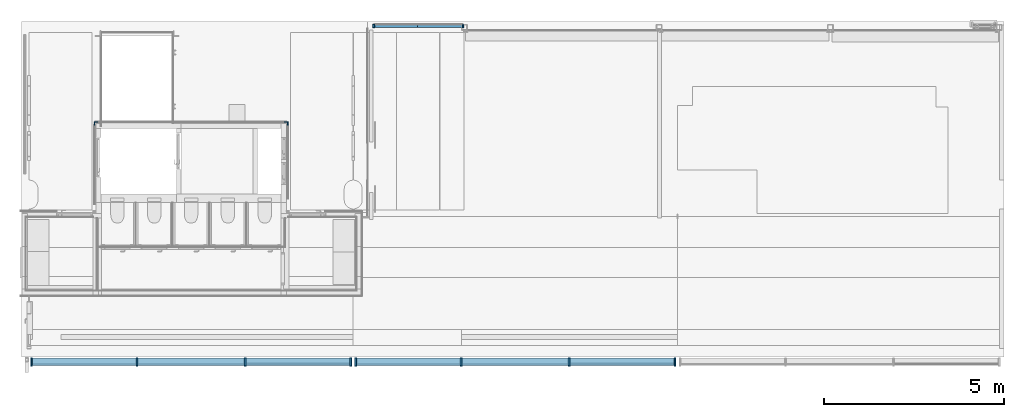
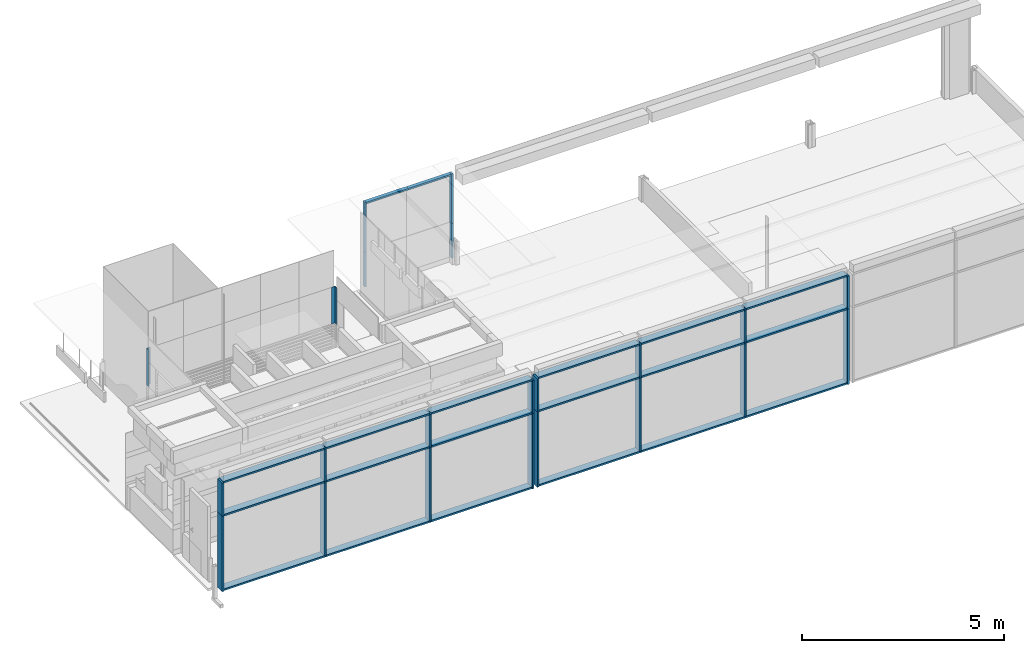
# One storey, part 4 of 26: 42 members, 4 elements without a shape of their own.
"""IFC2X3 building model written with IfcOpenShell, lengths in millimetres."""

import ifcopenshell
import ifcopenshell.guid

model = None  # the IFC model being written
_history = None  # IfcOwnerHistory: only IFC2X3 demands one
_inside = {}  # id of a spatial element -> (the spatial element, [elements in it])
_under = {}  # id of a project, library or spatial element -> (it, [spatial elements below it])
_declared = {}  # id of a project -> (the project, [libraries it declares])
_typed = {}  # id of a type object -> (the type object, [elements of that type])
_made_of = {}  # id of a material, layer set ... -> (it, [elements and type objects made of it])


def new_model(schema):
    """Start an empty IFC model of exactly this schema.

    Asked for "IFC4X3", IfcOpenShell would pick the latest addendum, in which some entities
    have other attributes; the version numbers below select the first issue.
    IFC2X3 requires an IfcOwnerHistory on every rooted entity: one is made here for all.
    """
    global model, _history
    if schema == "IFC4X3":
        model = ifcopenshell.file(schema_version=(4, 3, 0, 0))
    else:
        model = ifcopenshell.file(schema=schema)
    _inside.clear()
    _under.clear()
    _declared.clear()
    _typed.clear()
    _made_of.clear()
    _history = None
    if model.schema == "IFC2X3":
        org = make("IfcOrganization", Name="unknown")
        user = make(
            "IfcPersonAndOrganization",
            ThePerson=make("IfcPerson", FamilyName="unknown"),
            TheOrganization=org,
        )
        app = make(
            "IfcApplication",
            ApplicationDeveloper=org,
            Version="unknown",
            ApplicationFullName="unknown",
            ApplicationIdentifier="unknown",
        )
        _history = make(
            "IfcOwnerHistory",
            OwningUser=user,
            OwningApplication=app,
            ChangeAction="ADDED",
            CreationDate=0,
        )
    return model


def make(cls, **values):
    """One entity of the class cls with the attributes given. An attribute that is None is left unset."""
    return model.create_entity(
        cls, **{name: value for name, value in values.items() if value is not None}
    )


def entity(cls, *values):
    """Any entity or typed value of the class cls, its attributes in the order of the schema. None: left unset."""
    e = model.create_entity(cls)
    for i, value in enumerate(values):
        if value is not None:
            e[i] = value
    return e


def rooted(cls, **values):
    """An entity with a GlobalId (a new one), such as an element, a storey or a relation."""
    return make(cls, GlobalId=ifcopenshell.guid.new(), OwnerHistory=_history, **values)


def si_unit(unit_type, name, prefix=None):
    """IfcSIUnit, for example si_unit("LENGTHUNIT", "METRE", prefix="MILLI")."""
    return make("IfcSIUnit", UnitType=unit_type, Prefix=prefix, Name=name)


def converted_unit(unit_type, name, factor, base, dimensions=None, offset=None):
    """IfcConversionBasedUnit, such as the inch: factor (a typed value) times the base unit."""
    return make(
        "IfcConversionBasedUnit"
        if offset is None
        else "IfcConversionBasedUnitWithOffset",
        ConversionOffset=offset,
        Dimensions=None
        if dimensions is None
        else entity("IfcDimensionalExponents", *dimensions),
        UnitType=unit_type,
        Name=name,
        ConversionFactor=make(
            "IfcMeasureWithUnit", ValueComponent=factor, UnitComponent=base
        ),
    )


def derived_unit(unit_type, elements):
    """IfcDerivedUnit: a product of units, each with its exponent."""
    return make(
        "IfcDerivedUnit",
        Elements=[
            make("IfcDerivedUnitElement", Unit=unit, Exponent=power)
            for unit, power in elements
        ],
        UnitType=unit_type,
    )


def assignment(units):
    """IfcUnitAssignment: the units of a project."""
    return None if units is None else make("IfcUnitAssignment", Units=units)


def point(xyz):
    """IfcCartesianPoint."""
    return None if xyz is None else make("IfcCartesianPoint", Coordinates=xyz)


def direction(xyz):
    """IfcDirection."""
    return None if xyz is None else make("IfcDirection", DirectionRatios=xyz)


def frame(location, z_axis=None, x_axis=None):
    """IfcAxis2Placement3D, a coordinate frame: its origin and axes. An axis left out is left unset."""
    return make(
        "IfcAxis2Placement3D",
        Location=point(location),
        Axis=direction(z_axis),
        RefDirection=direction(x_axis),
    )


def frame_2d(location, x_axis=None):
    """IfcAxis2Placement2D, a coordinate frame in the plane: its origin and x axis."""
    return make(
        "IfcAxis2Placement2D", Location=point(location), RefDirection=direction(x_axis)
    )


def origin():
    """The frame at (0, 0, 0) with its axes left unset."""
    return frame((0.0, 0.0, 0.0))


def origin_with_axes():
    """The frame at (0, 0, 0) with the z axis (0, 0, 1) and the x axis (1, 0, 0) written out."""
    return frame((0.0, 0.0, 0.0), z_axis=(0.0, 0.0, 1.0), x_axis=(1.0, 0.0, 0.0))


def origin_2d_with_axis():
    """The frame at (0, 0) in the plane with the x axis (1, 0) written out."""
    return frame_2d((0.0, 0.0), x_axis=(1.0, 0.0))


def place(relative_to, where):
    """IfcLocalPlacement: puts the frame where relative to a parent placement (None: the world)."""
    return make(
        "IfcLocalPlacement", PlacementRelTo=relative_to, RelativePlacement=where
    )


def context(
    kind, dimensions, precision=None, world=None, true_north=None, identifier=None
):
    """IfcGeometricRepresentationContext, for example the 3D "Model" context."""
    return make(
        "IfcGeometricRepresentationContext",
        ContextIdentifier=identifier,
        ContextType=kind,
        CoordinateSpaceDimension=dimensions,
        Precision=precision,
        WorldCoordinateSystem=world,
        TrueNorth=true_north,
    )


def subcontext(parent, identifier, kind, view, scale=None):
    """IfcGeometricRepresentationSubContext, for example "Body" below "Model"."""
    return make(
        "IfcGeometricRepresentationSubContext",
        ContextIdentifier=identifier,
        ContextType=kind,
        ParentContext=parent,
        TargetScale=scale,
        TargetView=view,
    )


def project(units=None, contexts=None):
    """IfcProject with its units and contexts."""
    return rooted(
        "IfcProject",
        Name="project",
        RepresentationContexts=contexts,
        UnitsInContext=assignment(units),
    )


def spatial(cls, under=None, at=None, **own):
    """A site, building, storey or space (cls), placed at a placement, below another one or the project."""
    s = rooted(cls, ObjectPlacement=at, **own)
    if under is not None:
        _under.setdefault(under.id(), (under, []))[1].append(s)
    return s


def polyline(points):
    """IfcPolyline through the points."""
    return make("IfcPolyline", Points=[point(p) for p in points])


def profile(cls, at=None, kind="AREA", **sizes):
    """A parametric profile (cls). Its sizes go by their IFC names, for example OverallWidth=200.0."""
    return make(cls, ProfileType=kind, Position=at, **sizes)


def rectangle(**sizes):
    """IfcRectangleProfileDef."""
    return profile("IfcRectangleProfileDef", **sizes)


def outline(outer, holes=None, kind="AREA"):
    """IfcArbitraryClosedProfileDef: a profile drawn as a closed curve; with holes, ...WithVoids."""
    if holes is None:
        return make("IfcArbitraryClosedProfileDef", ProfileType=kind, OuterCurve=outer)
    return make(
        "IfcArbitraryProfileDefWithVoids",
        ProfileType=kind,
        OuterCurve=outer,
        InnerCurves=holes,
    )


def extrude(swept, where, along, depth):
    """IfcExtrudedAreaSolid: the profile swept, set in the frame where, extruded along a direction by depth."""
    return make(
        "IfcExtrudedAreaSolid",
        SweptArea=swept,
        Position=where,
        ExtrudedDirection=direction(along),
        Depth=depth,
    )


def shape(context_of_items, identifier, shape_type, items):
    """IfcShapeRepresentation: the items that make up one representation, for example the "Body"."""
    return make(
        "IfcShapeRepresentation",
        ContextOfItems=context_of_items,
        RepresentationIdentifier=identifier,
        RepresentationType=shape_type,
        Items=items,
    )


def source(mapping_origin, context_of_items, identifier, shape_type, items):
    """IfcRepresentationMap: a shape defined once, which mapped items show again and again."""
    return make(
        "IfcRepresentationMap",
        MappingOrigin=mapping_origin,
        MappedRepresentation=shape(context_of_items, identifier, shape_type, items),
    )


def transform(
    local_origin,
    x_axis=None,
    y_axis=None,
    z_axis=None,
    scale=None,
    scale2=None,
    scale3=None,
    uniform=True,
):
    """IfcCartesianTransformationOperator3D, or its non-uniform kind. x_axis, y_axis, z_axis: its Axis1, 2, 3."""
    if uniform:
        return make(
            "IfcCartesianTransformationOperator3D",
            Axis1=direction(x_axis),
            Axis2=direction(y_axis),
            LocalOrigin=point(local_origin),
            Scale=scale,
            Axis3=direction(z_axis),
        )
    return make(
        "IfcCartesianTransformationOperator3DnonUniform",
        Axis1=direction(x_axis),
        Axis2=direction(y_axis),
        LocalOrigin=point(local_origin),
        Scale=scale,
        Axis3=direction(z_axis),
        Scale2=scale2,
        Scale3=scale3,
    )


def mapped(mapping_source, mapping_target):
    """IfcMappedItem: shows the shape of a source again, moved by a transform."""
    return make(
        "IfcMappedItem", MappingSource=mapping_source, MappingTarget=mapping_target
    )


def material(Name=None, Category=None):
    """IfcMaterial."""
    return make("IfcMaterial", Name=Name, Category=Category)


def made_of(thing, what):
    """Note that an element or type object is made of a material, layer set ...; save() writes the relation."""
    if what is not None:
        _made_of.setdefault(what.id(), (what, []))[1].append(thing)
    return thing


def type_object(cls, material=None, **own):
    """A type object (cls), such as IfcWallType, which elements share."""
    return made_of(rooted(cls, **own), material)


def element(
    cls,
    number,
    at=None,
    inside=None,
    cuts=None,
    type_object=None,
    material=None,
    context=None,
    identifier="Body",
    shape_type=None,
    held_by="IfcProductDefinitionShape",
    body=None,
    shapes=None,
    **own,
):
    """One element of the class cls, such as IfcWall. Its Tag is "e" and its number.

    at: its placement. inside: the storey or other place that contains it. cuts: it is an
    opening in that element (IfcRelVoidsElement). A single representation is given by context,
    identifier, shape_type and body (its items); several are given by shapes. held_by: the class
    of the entity that holds the representations. save() writes the other relations.
    """
    e = rooted(cls, Tag="e%d" % number, ObjectPlacement=at, **own)
    if body is not None:
        shapes = [shape(context, identifier, shape_type, body)]
    if shapes is not None:
        e.Representation = make(held_by, Representations=shapes)
    if inside is not None:
        _inside.setdefault(inside.id(), (inside, []))[1].append(e)
    if cuts is not None:
        rooted(
            "IfcRelVoidsElement", RelatingBuildingElement=cuts, RelatedOpeningElement=e
        )
    if type_object is not None:
        _typed.setdefault(type_object.id(), (type_object, []))[1].append(e)
    return made_of(e, material)


def aggregate(whole, parts):
    """IfcRelAggregates: a whole, such as a stair, and the parts it consists of."""
    return rooted("IfcRelAggregates", RelatingObject=whole, RelatedObjects=parts)


def save(model, path):
    """Write the relations noted so far, then the file.

    IfcRelAggregates (storeys below a building ...), IfcRelContainedInSpatialStructure (elements
    in a storey), IfcRelDefinesByType, IfcRelAssociatesMaterial and IfcRelDeclares: one each for
    every whole, place, type object, material and project.
    """
    for whole, parts in _under.values():
        aggregate(whole, parts)
    for where, things in _inside.values():
        rooted(
            "IfcRelContainedInSpatialStructure",
            RelatedElements=things,
            RelatingStructure=where,
        )
    for kind, things in _typed.values():
        rooted("IfcRelDefinesByType", RelatedObjects=things, RelatingType=kind)
    for what, things in _made_of.values():
        rooted("IfcRelAssociatesMaterial", RelatedObjects=things, RelatingMaterial=what)
    for by, libraries in _declared.values():
        rooted("IfcRelDeclares", RelatingContext=by, RelatedDefinitions=libraries)
    model.write(path)


model = new_model("IFC2X3")

# Units and contexts
model_context = context("Model", 3, precision=0.01, world=frame((0.0, 4.29681676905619e-09, 0.0)), true_north=direction((4.01073788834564e-13, 1.0)))
plan_context = context("Plan", 3, precision=0.01, world=frame((0.0, 4.29681676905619e-09, 0.0)), true_north=direction((4.01073788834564e-13, 1.0)))
body_context = subcontext(model_context, "Body", "Model", "MODEL_VIEW")
ifc_project = project(units=[converted_unit("PLANEANGLEUNIT", "DEGREE", entity("IfcPositiveLengthMeasure", 0.0174532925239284), si_unit("PLANEANGLEUNIT", "RADIAN"), dimensions=[0, 0, 0, 0, 0, 0, 0]), si_unit("AREAUNIT", "SQUARE_METRE"), si_unit("LENGTHUNIT", "METRE", prefix="MILLI"), si_unit("MASSUNIT", "GRAM", prefix="KILO"), si_unit("POWERUNIT", "WATT"), si_unit("PRESSUREUNIT", "PASCAL", prefix="KILO"), si_unit("FORCEUNIT", "NEWTON", prefix="KILO"), si_unit("ELECTRICVOLTAGEUNIT", "VOLT"), si_unit("ELECTRICCURRENTUNIT", "AMPERE"), si_unit("THERMODYNAMICTEMPERATUREUNIT", "DEGREE_CELSIUS"), si_unit("TIMEUNIT", "SECOND"), si_unit("VOLUMEUNIT", "CUBIC_METRE"), derived_unit("LINEARVELOCITYUNIT", [(si_unit("LENGTHUNIT", "METRE"), 1), (si_unit("TIMEUNIT", "SECOND"), -1)]), derived_unit("VOLUMETRICFLOWRATEUNIT", [(si_unit("VOLUMEUNIT", "CUBIC_METRE"), 1), (si_unit("TIMEUNIT", "SECOND"), -1)]), derived_unit("THERMALTRANSMITTANCEUNIT", [(si_unit("POWERUNIT", "WATT"), 1), (si_unit("THERMODYNAMICTEMPERATUREUNIT", "KELVIN"), -1), (si_unit("AREAUNIT", "SQUARE_METRE"), -1)]), derived_unit("SOUNDPRESSUREUNIT", [(si_unit("PRESSUREUNIT", "PASCAL"), 1)])], contexts=[model_context, plan_context])

# Site, building, storey
site_placement = place(None, origin_with_axes())
site = spatial("IfcSite", under=ifc_project, at=site_placement, Name="ENGM", CompositionType="ELEMENT")
building_placement = place(site_placement, origin_with_axes())
building = spatial("IfcBuilding", under=site, at=building_placement, Name="TG", CompositionType="ELEMENT")
storey_placement = place(building_placement, frame((0.0, 0.0, 210200.0), z_axis=(0.0, 0.0, 1.0), x_axis=(1.0, 0.0, 0.0)))
storey = spatial("IfcBuildingStorey", under=building, at=storey_placement, Name="Nivå F - 0,7 m", CompositionType="ELEMENT", Elevation=210200.0)

# Curtain wall, members
curtain_wall_type_1 = type_object("IfcCurtainWallType", Name="Curtain Wall:A232 - UGV - Glass 30 mm", PredefinedType="NOTDEFINED")
curtain_wall_1_placement = place(storey_placement, frame((0.0, 0.0, -210200.0), z_axis=(0.0, 0.0, 1.0), x_axis=(1.0, 0.0, 0.0)))
curtain_wall_1 = element("IfcCurtainWall", 1, at=curtain_wall_1_placement, inside=storey, type_object=curtain_wall_type_1, Name="Curtain Wall:A232 - UGV - Glass 30 mm", ObjectType="Curtain Wall:A232 - UGV - Glass 30 mm")
ifc_material_1 = material(Name="T2_Metal_Aluminium")
member_type_1 = type_object("IfcMemberType", Name="Rectangular Mullion:A233 - Sprosse - 165(post)+50(dekkprofil) x 50 mm", PredefinedType="MULLION", material=ifc_material_1)
shared_shape_1 = source(origin(), body_context, "Body", "SweptSolid", [
    extrude(rectangle(XDim=214.999999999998, YDim=50.0, at=frame_2d((7.105427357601e-15, 0.0), x_axis=(1.0, 0.0))), frame((-25.0, 57.5000000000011, -2905.0), z_axis=(0.0, 0.0, 1.0), x_axis=(0.0, -1.0, 0.0)), (0.0, 0.0, 1.0), 2904.99999999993),
])
member_1_placement = place(curtain_wall_1_placement, frame((330904.725000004, 457999.999999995, 210180.0), z_axis=(1.0, 0.0, 0.0), x_axis=(0.0, 0.0, -1.0)))
member_1 = element("IfcMember", 2, at=member_1_placement, type_object=member_type_1, material=ifc_material_1, Name="Rectangular Mullion:A233 - Sprosse - 165(post)+50(dekkprofil) x 50 mm", ObjectType="Rectangular Mullion:A233 - Sprosse - 165(post)+50(dekkprofil) x 50 mm", context=body_context, shape_type="MappedRepresentation", body=[
    mapped(shared_shape_1, transform((0.0, 0.0, 0.0), scale=1.0)),
])
member_type_2 = type_object("IfcMemberType", Name="Rectangular Mullion:A233 - Sprosse - 165(post)+50(dekkprofil) x 50 mm", PredefinedType="MULLION", material=ifc_material_1)
member_2_placement = place(curtain_wall_1_placement, frame((324999.725000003, 458000.0, 210180.0), z_axis=(1.0, 0.0, 0.0), x_axis=(0.0, 0.0, -1.0)))
member_2 = element("IfcMember", 3, at=member_2_placement, type_object=member_type_2, material=ifc_material_1, Name="Rectangular Mullion:A233 - Sprosse - 165(post)+50(dekkprofil) x 50 mm", ObjectType="Rectangular Mullion:A233 - Sprosse - 165(post)+50(dekkprofil) x 50 mm", context=body_context, shape_type="MappedRepresentation", body=[
    mapped(shared_shape_1, transform((0.0, 0.0, 0.0), scale=1.0)),
])

curtain_wall_2_placement = place(storey_placement, frame((0.0, 0.0, -210200.0), z_axis=(0.0, 0.0, 1.0), x_axis=(1.0, 0.0, 0.0)))
curtain_wall_2 = element("IfcCurtainWall", 4, at=curtain_wall_2_placement, inside=storey, type_object=curtain_wall_type_1, Name="Curtain Wall:A232 - UGV - Glass 30 mm", ObjectType="Curtain Wall:A232 - UGV - Glass 30 mm")
member_3_placement = place(curtain_wall_2_placement, frame((339904.725000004, 457999.999999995, 210180.0), z_axis=(1.0, 0.0, 0.0), x_axis=(0.0, 0.0, -1.0)))
member_3 = element("IfcMember", 5, at=member_3_placement, type_object=member_type_1, material=ifc_material_1, Name="Rectangular Mullion:A233 - Sprosse - 165(post)+50(dekkprofil) x 50 mm", ObjectType="Rectangular Mullion:A233 - Sprosse - 165(post)+50(dekkprofil) x 50 mm", context=body_context, shape_type="MappedRepresentation", body=[
    mapped(shared_shape_1, transform((0.0, 0.0, 0.0), scale=1.0)),
])
member_4_placement = place(curtain_wall_2_placement, frame((333999.725000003, 458000.0, 210180.0), z_axis=(1.0, 0.0, 0.0), x_axis=(0.0, 0.0, -1.0)))
member_4 = element("IfcMember", 6, at=member_4_placement, type_object=member_type_2, material=ifc_material_1, Name="Rectangular Mullion:A233 - Sprosse - 165(post)+50(dekkprofil) x 50 mm", ObjectType="Rectangular Mullion:A233 - Sprosse - 165(post)+50(dekkprofil) x 50 mm", context=body_context, shape_type="MappedRepresentation", body=[
    mapped(shared_shape_1, transform((0.0, 0.0, 0.0), scale=1.0)),
])

# Member
member_type_3 = type_object("IfcMemberType", Name="Rectangular Mullion:A233 - Sprosse - 165(post)+50(dekkprofil) x 50 mm", PredefinedType="MULLION", material=ifc_material_1)
shared_shape_2 = source(origin(), body_context, "Body", "SweptSolid", [
    extrude(rectangle(XDim=214.999999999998, YDim=50.0, at=frame_2d((7.105427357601e-15, 0.0), x_axis=(1.0, 0.0))), frame((-25.0, 57.5000000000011, -3000.0), z_axis=(0.0, 0.0, 1.0), x_axis=(0.0, -1.0, 0.0)), (0.0, 0.0, 1.0), 3000.00000000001),
])
member_5_placement = place(curtain_wall_1_placement, frame((327999.725000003, 457999.999999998, 210180.0), z_axis=(1.0, 0.0, 0.0), x_axis=(0.0, 0.0, -1.0)))
member_5 = element("IfcMember", 7, at=member_5_placement, type_object=member_type_3, material=ifc_material_1, Name="Rectangular Mullion:A233 - Sprosse - 165(post)+50(dekkprofil) x 50 mm", ObjectType="Rectangular Mullion:A233 - Sprosse - 165(post)+50(dekkprofil) x 50 mm", context=body_context, shape_type="MappedRepresentation", body=[
    mapped(shared_shape_2, transform((0.0, 0.0, 0.0), scale=1.0)),
])

member_6_placement = place(curtain_wall_2_placement, frame((336999.725000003, 457999.999999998, 210180.0), z_axis=(1.0, 0.0, 0.0), x_axis=(0.0, 0.0, -1.0)))
member_6 = element("IfcMember", 8, at=member_6_placement, type_object=member_type_3, material=ifc_material_1, Name="Rectangular Mullion:A233 - Sprosse - 165(post)+50(dekkprofil) x 50 mm", ObjectType="Rectangular Mullion:A233 - Sprosse - 165(post)+50(dekkprofil) x 50 mm", context=body_context, shape_type="MappedRepresentation", body=[
    mapped(shared_shape_2, transform((0.0, 0.0, 0.0), scale=1.0)),
])

member_type_4 = type_object("IfcMemberType", Name="Rectangular Mullion:A233 - Sprosse - 165(post)+70(dekkprofil) x 50 mm", PredefinedType="MULLION", material=ifc_material_1)
shared_shape_3 = source(origin(), body_context, "Body", "SweptSolid", [
    extrude(rectangle(XDim=50.0, YDim=234.999999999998, at=origin_2d_with_axis()), frame((0.0, 47.5000000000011, -2225.0), z_axis=(0.0, 0.0, 1.0), x_axis=(-1.0, 0.0, 0.0)), (0.0, 0.0, 1.0), 2224.99999999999),
])
member_7_placement = place(curtain_wall_1_placement, frame((324999.725000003, 458000.0, 210230.0), z_axis=(0.0, 0.0, -1.0), x_axis=(-1.0, 0.0, 0.0)))
member_7 = element("IfcMember", 9, at=member_7_placement, type_object=member_type_4, material=ifc_material_1, Name="Rectangular Mullion:A233 - Sprosse - 165(post)+70(dekkprofil) x 50 mm", ObjectType="Rectangular Mullion:A233 - Sprosse - 165(post)+70(dekkprofil) x 50 mm", context=body_context, shape_type="MappedRepresentation", body=[
    mapped(shared_shape_3, transform((0.0, 0.0, 0.0), scale=1.0)),
])

member_8_placement = place(curtain_wall_1_placement, frame((327999.725000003, 457999.999999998, 210230.0), z_axis=(0.0, 0.0, -1.0), x_axis=(-1.0, 0.0, 0.0)))
member_8 = element("IfcMember", 10, at=member_8_placement, type_object=member_type_4, material=ifc_material_1, Name="Rectangular Mullion:A233 - Sprosse - 165(post)+70(dekkprofil) x 50 mm", ObjectType="Rectangular Mullion:A233 - Sprosse - 165(post)+70(dekkprofil) x 50 mm", context=body_context, shape_type="MappedRepresentation", body=[
    mapped(shared_shape_3, transform((0.0, 0.0, 0.0), scale=1.0)),
])

member_9_placement = place(curtain_wall_2_placement, frame((333999.725000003, 458000.0, 210230.0), z_axis=(0.0, 0.0, -1.0), x_axis=(-1.0, 0.0, 0.0)))
member_9 = element("IfcMember", 11, at=member_9_placement, type_object=member_type_4, material=ifc_material_1, Name="Rectangular Mullion:A233 - Sprosse - 165(post)+70(dekkprofil) x 50 mm", ObjectType="Rectangular Mullion:A233 - Sprosse - 165(post)+70(dekkprofil) x 50 mm", context=body_context, shape_type="MappedRepresentation", body=[
    mapped(shared_shape_3, transform((0.0, 0.0, 0.0), scale=1.0)),
])

member_10_placement = place(curtain_wall_2_placement, frame((336999.725000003, 457999.999999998, 210230.0), z_axis=(0.0, 0.0, -1.0), x_axis=(-1.0, 0.0, 0.0)))
member_10 = element("IfcMember", 12, at=member_10_placement, type_object=member_type_4, material=ifc_material_1, Name="Rectangular Mullion:A233 - Sprosse - 165(post)+70(dekkprofil) x 50 mm", ObjectType="Rectangular Mullion:A233 - Sprosse - 165(post)+70(dekkprofil) x 50 mm", context=body_context, shape_type="MappedRepresentation", body=[
    mapped(shared_shape_3, transform((0.0, 0.0, 0.0), scale=1.0)),
])

member_type_5 = type_object("IfcMemberType", Name="Rectangular Mullion:A233 - Sprosse - 165(post)+70(dekkprofil) x 50 mm", PredefinedType="MULLION", material=ifc_material_1)
shared_shape_4 = source(origin(), body_context, "Body", "SweptSolid", [
    extrude(rectangle(XDim=234.999999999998, YDim=50.0, at=frame_2d((7.105427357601e-15, 0.0), x_axis=(1.0, 0.0))), frame((-25.0, 47.5000000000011, -1000.0), z_axis=(0.0, 0.0, 1.0), x_axis=(0.0, -1.0, 0.0)), (0.0, 0.0, 1.0), 1000.0),
])
member_11_placement = place(curtain_wall_1_placement, frame((330954.725000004, 457999.999999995, 213455.0), z_axis=(0.0, 0.0, 1.0), x_axis=(1.0, 0.0, 0.0)))
member_11 = element("IfcMember", 13, at=member_11_placement, type_object=member_type_5, material=ifc_material_1, Name="Rectangular Mullion:A233 - Sprosse - 165(post)+70(dekkprofil) x 50 mm", ObjectType="Rectangular Mullion:A233 - Sprosse - 165(post)+70(dekkprofil) x 50 mm", context=body_context, shape_type="MappedRepresentation", body=[
    mapped(shared_shape_4, transform((0.0, 0.0, 0.0), scale=1.0)),
])

member_12_placement = place(curtain_wall_2_placement, frame((339954.725000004, 457999.999999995, 213455.0), z_axis=(0.0, 0.0, 1.0), x_axis=(1.0, 0.0, 0.0)))
member_12 = element("IfcMember", 14, at=member_12_placement, type_object=member_type_5, material=ifc_material_1, Name="Rectangular Mullion:A233 - Sprosse - 165(post)+70(dekkprofil) x 50 mm", ObjectType="Rectangular Mullion:A233 - Sprosse - 165(post)+70(dekkprofil) x 50 mm", context=body_context, shape_type="MappedRepresentation", body=[
    mapped(shared_shape_4, transform((0.0, 0.0, 0.0), scale=1.0)),
])

member_type_6 = type_object("IfcMemberType", Name="Rectangular Mullion:A233 - Sprosse - 165(post)+50(dekkprofil) x 50 mm", PredefinedType="MULLION", material=ifc_material_1)
shared_shape_5 = source(origin(), body_context, "Body", "SweptSolid", [
    extrude(rectangle(XDim=50.0, YDim=214.999999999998, at=frame_2d((0.0, -1.4210854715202e-14), x_axis=(1.0, 0.0))), frame((0.0, 57.5000000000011, -2880.0), z_axis=(0.0, 0.0, 1.0), x_axis=(-1.0, 0.0, 0.0)), (0.0, 0.0, 1.0), 2880.0),
])
member_13_placement = place(curtain_wall_1_placement, frame((328024.725000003, 457999.999999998, 213455.0), z_axis=(-1.0, 0.0, 0.0), x_axis=(0.0, 0.0, 1.0)))
member_13 = element("IfcMember", 15, at=member_13_placement, type_object=member_type_6, material=ifc_material_1, Name="Rectangular Mullion:A233 - Sprosse - 165(post)+50(dekkprofil) x 50 mm", ObjectType="Rectangular Mullion:A233 - Sprosse - 165(post)+50(dekkprofil) x 50 mm", context=body_context, shape_type="MappedRepresentation", body=[
    mapped(shared_shape_5, transform((0.0, 0.0, 0.0), scale=1.0)),
])

member_14_placement = place(curtain_wall_1_placement, frame((322094.725000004, 458000.000000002, 213455.0), z_axis=(-1.0, 0.0, 0.0), x_axis=(0.0, 0.0, 1.0)))
member_14 = element("IfcMember", 16, at=member_14_placement, type_object=member_type_6, material=ifc_material_1, Name="Rectangular Mullion:A233 - Sprosse - 165(post)+50(dekkprofil) x 50 mm", ObjectType="Rectangular Mullion:A233 - Sprosse - 165(post)+50(dekkprofil) x 50 mm", context=body_context, shape_type="MappedRepresentation", body=[
    mapped(shared_shape_5, transform((0.0, 0.0, 0.0), scale=1.0)),
])

member_15_placement = place(curtain_wall_1_placement, frame((328024.725000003, 457999.999999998, 212455.0), z_axis=(-1.0, 0.0, 0.0), x_axis=(0.0, 0.0, 1.0)))
member_15 = element("IfcMember", 17, at=member_15_placement, type_object=member_type_6, material=ifc_material_1, Name="Rectangular Mullion:A233 - Sprosse - 165(post)+50(dekkprofil) x 50 mm", ObjectType="Rectangular Mullion:A233 - Sprosse - 165(post)+50(dekkprofil) x 50 mm", context=body_context, shape_type="MappedRepresentation", body=[
    mapped(shared_shape_5, transform((0.0, 0.0, 0.0), scale=1.0)),
])

member_16_placement = place(curtain_wall_1_placement, frame((322094.725000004, 458000.000000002, 212455.0), z_axis=(-1.0, 0.0, 0.0), x_axis=(0.0, 0.0, 1.0)))
member_16 = element("IfcMember", 18, at=member_16_placement, type_object=member_type_6, material=ifc_material_1, Name="Rectangular Mullion:A233 - Sprosse - 165(post)+50(dekkprofil) x 50 mm", ObjectType="Rectangular Mullion:A233 - Sprosse - 165(post)+50(dekkprofil) x 50 mm", context=body_context, shape_type="MappedRepresentation", body=[
    mapped(shared_shape_5, transform((0.0, 0.0, 0.0), scale=1.0)),
])

member_17_placement = place(curtain_wall_2_placement, frame((337024.725000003, 457999.999999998, 213455.0), z_axis=(-1.0, 0.0, 0.0), x_axis=(0.0, 0.0, 1.0)))
member_17 = element("IfcMember", 19, at=member_17_placement, type_object=member_type_6, material=ifc_material_1, Name="Rectangular Mullion:A233 - Sprosse - 165(post)+50(dekkprofil) x 50 mm", ObjectType="Rectangular Mullion:A233 - Sprosse - 165(post)+50(dekkprofil) x 50 mm", context=body_context, shape_type="MappedRepresentation", body=[
    mapped(shared_shape_5, transform((0.0, 0.0, 0.0), scale=1.0)),
])

member_18_placement = place(curtain_wall_2_placement, frame((331094.725000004, 458000.000000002, 213455.0), z_axis=(-1.0, 0.0, 0.0), x_axis=(0.0, 0.0, 1.0)))
member_18 = element("IfcMember", 20, at=member_18_placement, type_object=member_type_6, material=ifc_material_1, Name="Rectangular Mullion:A233 - Sprosse - 165(post)+50(dekkprofil) x 50 mm", ObjectType="Rectangular Mullion:A233 - Sprosse - 165(post)+50(dekkprofil) x 50 mm", context=body_context, shape_type="MappedRepresentation", body=[
    mapped(shared_shape_5, transform((0.0, 0.0, 0.0), scale=1.0)),
])

member_19_placement = place(curtain_wall_2_placement, frame((337024.725000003, 457999.999999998, 212455.0), z_axis=(-1.0, 0.0, 0.0), x_axis=(0.0, 0.0, 1.0)))
member_19 = element("IfcMember", 21, at=member_19_placement, type_object=member_type_6, material=ifc_material_1, Name="Rectangular Mullion:A233 - Sprosse - 165(post)+50(dekkprofil) x 50 mm", ObjectType="Rectangular Mullion:A233 - Sprosse - 165(post)+50(dekkprofil) x 50 mm", context=body_context, shape_type="MappedRepresentation", body=[
    mapped(shared_shape_5, transform((0.0, 0.0, 0.0), scale=1.0)),
])

member_20_placement = place(curtain_wall_2_placement, frame((331094.725000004, 458000.000000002, 212455.0), z_axis=(-1.0, 0.0, 0.0), x_axis=(0.0, 0.0, 1.0)))
member_20 = element("IfcMember", 22, at=member_20_placement, type_object=member_type_6, material=ifc_material_1, Name="Rectangular Mullion:A233 - Sprosse - 165(post)+50(dekkprofil) x 50 mm", ObjectType="Rectangular Mullion:A233 - Sprosse - 165(post)+50(dekkprofil) x 50 mm", context=body_context, shape_type="MappedRepresentation", body=[
    mapped(shared_shape_5, transform((0.0, 0.0, 0.0), scale=1.0)),
])

member_type_7 = type_object("IfcMemberType", Name="Rectangular Mullion:A233 - Sprosse - 165(post)+50(dekkprofil) x 50 mm", PredefinedType="MULLION", material=ifc_material_1)
shared_shape_6 = source(origin(), body_context, "Body", "SweptSolid", [
    extrude(rectangle(XDim=50.0, YDim=214.999999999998, at=frame_2d((0.0, -1.4210854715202e-14), x_axis=(1.0, 0.0))), frame((0.0, 57.5000000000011, -2950.0), z_axis=(0.0, 0.0, 1.0), x_axis=(-1.0, 0.0, 0.0)), (0.0, 0.0, 1.0), 2950.00000000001),
])
member_21_placement = place(curtain_wall_1_placement, frame((325024.725000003, 458000.0, 213455.0), z_axis=(-1.0, 0.0, 0.0), x_axis=(0.0, 0.0, 1.0)))
member_21 = element("IfcMember", 23, at=member_21_placement, type_object=member_type_7, material=ifc_material_1, Name="Rectangular Mullion:A233 - Sprosse - 165(post)+50(dekkprofil) x 50 mm", ObjectType="Rectangular Mullion:A233 - Sprosse - 165(post)+50(dekkprofil) x 50 mm", context=body_context, shape_type="MappedRepresentation", body=[
    mapped(shared_shape_6, transform((0.0, 0.0, 0.0), scale=1.0)),
])

member_22_placement = place(curtain_wall_1_placement, frame((325024.725000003, 458000.0, 212455.0), z_axis=(-1.0, 0.0, 0.0), x_axis=(0.0, 0.0, 1.0)))
member_22 = element("IfcMember", 24, at=member_22_placement, type_object=member_type_7, material=ifc_material_1, Name="Rectangular Mullion:A233 - Sprosse - 165(post)+50(dekkprofil) x 50 mm", ObjectType="Rectangular Mullion:A233 - Sprosse - 165(post)+50(dekkprofil) x 50 mm", context=body_context, shape_type="MappedRepresentation", body=[
    mapped(shared_shape_6, transform((0.0, 0.0, 0.0), scale=1.0)),
])

member_23_placement = place(curtain_wall_2_placement, frame((334024.725000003, 458000.0, 213455.0), z_axis=(-1.0, 0.0, 0.0), x_axis=(0.0, 0.0, 1.0)))
member_23 = element("IfcMember", 25, at=member_23_placement, type_object=member_type_7, material=ifc_material_1, Name="Rectangular Mullion:A233 - Sprosse - 165(post)+50(dekkprofil) x 50 mm", ObjectType="Rectangular Mullion:A233 - Sprosse - 165(post)+50(dekkprofil) x 50 mm", context=body_context, shape_type="MappedRepresentation", body=[
    mapped(shared_shape_6, transform((0.0, 0.0, 0.0), scale=1.0)),
])

member_24_placement = place(curtain_wall_2_placement, frame((334024.725000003, 458000.0, 212455.0), z_axis=(-1.0, 0.0, 0.0), x_axis=(0.0, 0.0, 1.0)))
member_24 = element("IfcMember", 26, at=member_24_placement, type_object=member_type_7, material=ifc_material_1, Name="Rectangular Mullion:A233 - Sprosse - 165(post)+50(dekkprofil) x 50 mm", ObjectType="Rectangular Mullion:A233 - Sprosse - 165(post)+50(dekkprofil) x 50 mm", context=body_context, shape_type="MappedRepresentation", body=[
    mapped(shared_shape_6, transform((0.0, 0.0, 0.0), scale=1.0)),
])

member_type_8 = type_object("IfcMemberType", Name="Rectangular Mullion:A233 - Sprosse - 165(post)+70(dekkprofil) x 50 mm", PredefinedType="MULLION", material=ifc_material_1)
shared_shape_7 = source(origin(), body_context, "Body", "SweptSolid", [
    extrude(rectangle(XDim=50.0, YDim=234.999999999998, at=frame_2d((0.0, -2.1316282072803e-14), x_axis=(1.0, 0.0))), frame((-25.0, 47.5000000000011, -1000.0), z_axis=(0.0, 0.0, 1.0), x_axis=(-1.0, 0.0, 0.0)), (0.0, 0.0, 1.0), 1000.0),
])
member_25_placement = place(curtain_wall_1_placement, frame((322044.725000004, 458000.000000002, 212455.0), z_axis=(0.0, 0.0, -1.0), x_axis=(-1.0, 0.0, 0.0)))
member_25 = element("IfcMember", 27, at=member_25_placement, type_object=member_type_8, material=ifc_material_1, Name="Rectangular Mullion:A233 - Sprosse - 165(post)+70(dekkprofil) x 50 mm", ObjectType="Rectangular Mullion:A233 - Sprosse - 165(post)+70(dekkprofil) x 50 mm", context=body_context, shape_type="MappedRepresentation", body=[
    mapped(shared_shape_7, transform((0.0, 0.0, 0.0), scale=1.0)),
])

member_26_placement = place(curtain_wall_2_placement, frame((331044.725000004, 458000.000000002, 212455.0), z_axis=(0.0, 0.0, -1.0), x_axis=(-1.0, 0.0, 0.0)))
member_26 = element("IfcMember", 28, at=member_26_placement, type_object=member_type_8, material=ifc_material_1, Name="Rectangular Mullion:A233 - Sprosse - 165(post)+70(dekkprofil) x 50 mm", ObjectType="Rectangular Mullion:A233 - Sprosse - 165(post)+70(dekkprofil) x 50 mm", context=body_context, shape_type="MappedRepresentation", body=[
    mapped(shared_shape_7, transform((0.0, 0.0, 0.0), scale=1.0)),
])

member_type_9 = type_object("IfcMemberType", Name="Rectangular Mullion:A233 - Sprosse - 165(post)+70(dekkprofil) x 50 mm", PredefinedType="MULLION", material=ifc_material_1)
shared_shape_8 = source(origin(), body_context, "Body", "SweptSolid", [
    extrude(rectangle(XDim=50.0, YDim=234.999999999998, at=origin_2d_with_axis()), frame((0.0, 47.5000000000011, -1000.0), z_axis=(0.0, 0.0, 1.0), x_axis=(-1.0, 0.0, 0.0)), (0.0, 0.0, 1.0), 1000.0),
])
member_27_placement = place(curtain_wall_1_placement, frame((324999.725000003, 458000.0, 212455.0), z_axis=(0.0, 0.0, -1.0), x_axis=(-1.0, 0.0, 0.0)))
member_27 = element("IfcMember", 29, at=member_27_placement, type_object=member_type_9, material=ifc_material_1, Name="Rectangular Mullion:A233 - Sprosse - 165(post)+70(dekkprofil) x 50 mm", ObjectType="Rectangular Mullion:A233 - Sprosse - 165(post)+70(dekkprofil) x 50 mm", context=body_context, shape_type="MappedRepresentation", body=[
    mapped(shared_shape_8, transform((0.0, 0.0, 0.0), scale=1.0)),
])

member_28_placement = place(curtain_wall_1_placement, frame((327999.725000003, 457999.999999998, 212455.0), z_axis=(0.0, 0.0, -1.0), x_axis=(-1.0, 0.0, 0.0)))
member_28 = element("IfcMember", 30, at=member_28_placement, type_object=member_type_9, material=ifc_material_1, Name="Rectangular Mullion:A233 - Sprosse - 165(post)+70(dekkprofil) x 50 mm", ObjectType="Rectangular Mullion:A233 - Sprosse - 165(post)+70(dekkprofil) x 50 mm", context=body_context, shape_type="MappedRepresentation", body=[
    mapped(shared_shape_8, transform((0.0, 0.0, 0.0), scale=1.0)),
])

member_29_placement = place(curtain_wall_2_placement, frame((333999.725000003, 458000.0, 212455.0), z_axis=(0.0, 0.0, -1.0), x_axis=(-1.0, 0.0, 0.0)))
member_29 = element("IfcMember", 31, at=member_29_placement, type_object=member_type_9, material=ifc_material_1, Name="Rectangular Mullion:A233 - Sprosse - 165(post)+70(dekkprofil) x 50 mm", ObjectType="Rectangular Mullion:A233 - Sprosse - 165(post)+70(dekkprofil) x 50 mm", context=body_context, shape_type="MappedRepresentation", body=[
    mapped(shared_shape_8, transform((0.0, 0.0, 0.0), scale=1.0)),
])

member_30_placement = place(curtain_wall_2_placement, frame((336999.725000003, 457999.999999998, 212455.0), z_axis=(0.0, 0.0, -1.0), x_axis=(-1.0, 0.0, 0.0)))
member_30 = element("IfcMember", 32, at=member_30_placement, type_object=member_type_9, material=ifc_material_1, Name="Rectangular Mullion:A233 - Sprosse - 165(post)+70(dekkprofil) x 50 mm", ObjectType="Rectangular Mullion:A233 - Sprosse - 165(post)+70(dekkprofil) x 50 mm", context=body_context, shape_type="MappedRepresentation", body=[
    mapped(shared_shape_8, transform((0.0, 0.0, 0.0), scale=1.0)),
])

member_type_10 = type_object("IfcMemberType", Name="Rectangular Mullion:A233 - Sprosse - 165(post)+70(dekkprofil) x 50 mm", PredefinedType="MULLION", material=ifc_material_1)
shared_shape_9 = source(origin(), body_context, "Body", "SweptSolid", [
    extrude(rectangle(XDim=234.999999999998, YDim=50.0, at=frame_2d((7.105427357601e-15, 0.0), x_axis=(1.0, 0.0))), frame((-25.0, 47.5000000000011, -2275.0), z_axis=(0.0, 0.0, 1.0), x_axis=(0.0, -1.0, 0.0)), (0.0, 0.0, 1.0), 2275.0),
])
member_31_placement = place(curtain_wall_1_placement, frame((330954.725000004, 457999.999999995, 212455.0), z_axis=(0.0, 0.0, 1.0), x_axis=(1.0, 0.0, 0.0)))
member_31 = element("IfcMember", 33, at=member_31_placement, type_object=member_type_10, material=ifc_material_1, Name="Rectangular Mullion:A233 - Sprosse - 165(post)+70(dekkprofil) x 50 mm", ObjectType="Rectangular Mullion:A233 - Sprosse - 165(post)+70(dekkprofil) x 50 mm", context=body_context, shape_type="MappedRepresentation", body=[
    mapped(shared_shape_9, transform((0.0, 0.0, 0.0), scale=1.0)),
])

member_32_placement = place(curtain_wall_2_placement, frame((339954.725000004, 457999.999999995, 212455.0), z_axis=(0.0, 0.0, 1.0), x_axis=(1.0, 0.0, 0.0)))
member_32 = element("IfcMember", 34, at=member_32_placement, type_object=member_type_10, material=ifc_material_1, Name="Rectangular Mullion:A233 - Sprosse - 165(post)+70(dekkprofil) x 50 mm", ObjectType="Rectangular Mullion:A233 - Sprosse - 165(post)+70(dekkprofil) x 50 mm", context=body_context, shape_type="MappedRepresentation", body=[
    mapped(shared_shape_9, transform((0.0, 0.0, 0.0), scale=1.0)),
])

member_type_11 = type_object("IfcMemberType", Name="Rectangular Mullion:A233 - Sprosse - 165(post)+70(dekkprofil) x 50 mm", PredefinedType="MULLION", material=ifc_material_1)
shared_shape_10 = source(origin(), body_context, "Body", "SweptSolid", [
    extrude(rectangle(XDim=50.0, YDim=234.999999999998, at=origin_2d_with_axis()), frame((-25.0, 47.5000000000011, -2275.0), z_axis=(0.0, 0.0, 1.0), x_axis=(-1.0, 0.0, 0.0)), (0.0, 0.0, 1.0), 2274.99999999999),
])
member_33_placement = place(curtain_wall_1_placement, frame((322044.725000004, 458000.000000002, 210180.0), z_axis=(0.0, 0.0, -1.0), x_axis=(-1.0, 0.0, 0.0)))
member_33 = element("IfcMember", 35, at=member_33_placement, type_object=member_type_11, material=ifc_material_1, Name="Rectangular Mullion:A233 - Sprosse - 165(post)+70(dekkprofil) x 50 mm", ObjectType="Rectangular Mullion:A233 - Sprosse - 165(post)+70(dekkprofil) x 50 mm", context=body_context, shape_type="MappedRepresentation", body=[
    mapped(shared_shape_10, transform((0.0, 0.0, 0.0), scale=1.0)),
])

aggregate(curtain_wall_1, [member_1, member_2, member_5, member_7, member_8, member_11, member_13, member_14, member_21, member_25, member_27, member_28, member_31, member_15, member_16, member_22, member_33])

member_34_placement = place(curtain_wall_2_placement, frame((331044.725000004, 458000.000000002, 210180.0), z_axis=(0.0, 0.0, -1.0), x_axis=(-1.0, 0.0, 0.0)))
member_34 = element("IfcMember", 36, at=member_34_placement, type_object=member_type_11, material=ifc_material_1, Name="Rectangular Mullion:A233 - Sprosse - 165(post)+70(dekkprofil) x 50 mm", ObjectType="Rectangular Mullion:A233 - Sprosse - 165(post)+70(dekkprofil) x 50 mm", context=body_context, shape_type="MappedRepresentation", body=[
    mapped(shared_shape_10, transform((0.0, 0.0, 0.0), scale=1.0)),
])

aggregate(curtain_wall_2, [member_3, member_4, member_6, member_9, member_10, member_12, member_17, member_18, member_23, member_26, member_29, member_30, member_32, member_19, member_20, member_24, member_34])

# Curtain wall, members
curtain_wall_type_2 = type_object("IfcCurtainWallType", Name="Curtain Wall:A245 - BIM av T1 - IMK 20mm - Offset 30mm", PredefinedType="NOTDEFINED")
curtain_wall_3_placement = place(storey_placement, frame((0.0, 0.0, -210200.0), z_axis=(0.0, 0.0, 1.0), x_axis=(1.0, 0.0, 0.0)))
curtain_wall_3 = element("IfcCurtainWall", 37, at=curtain_wall_3_placement, inside=storey, type_object=curtain_wall_type_2, Name="Curtain Wall:A245 - BIM av T1 - IMK 20mm - Offset 30mm", ObjectType="Curtain Wall:A245 - BIM av T1 - IMK 20mm - Offset 30mm")
ifc_material_2 = material(Name="Metal - Steel")
member_type_12 = type_object("IfcMemberType", Name="L Corner Mullion:A233 - Sprosse - 20 x 100 mm", PredefinedType="MULLION", material=ifc_material_2)
shared_shape_11 = source(origin(), body_context, "Body", "SweptSolid", [
    extrude(outline(polyline([(-43.3333333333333, -66.6666666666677), (-23.3333333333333, -66.6666666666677), (-23.3333333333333, 23.3333333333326), (66.666666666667, 23.3333333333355), (66.6666666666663, 43.3333333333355), (-43.3333333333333, 43.333333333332), (-43.3333333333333, -66.6666666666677)])), frame((6.66666666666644, -6.66666666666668, -1105.0), z_axis=(0.0, 0.0, 1.0), x_axis=(-1.0, 0.0, 0.0)), (0.0, 0.0, 1.0), 1104.99999999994),
])
member_35_placement = place(curtain_wall_3_placement, frame((323855.000000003, 464677.272716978, 212800.0), z_axis=(0.0, 0.0, 1.0), x_axis=(-1.0, 0.0, 0.0)))
member_35 = element("IfcMember", 38, at=member_35_placement, type_object=member_type_12, material=ifc_material_2, Name="L Corner Mullion:A233 - Sprosse - 20 x 100 mm", ObjectType="L Corner Mullion:A233 - Sprosse - 20 x 100 mm", context=body_context, shape_type="MappedRepresentation", body=[
    mapped(shared_shape_11, transform((0.0, 0.0, 0.0), scale=1.0)),
])
member_type_13 = type_object("IfcMemberType", Name="L Corner Mullion:A233 - Sprosse - 20 x 100 mm", PredefinedType="MULLION", material=ifc_material_2)
shared_shape_12 = source(origin(), body_context, "Body", "SweptSolid", [
    extrude(outline(polyline([(-43.3333333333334, -66.6666666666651), (-23.3333333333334, -66.6666666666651), (-23.3333333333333, 23.3333333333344), (66.6666666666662, 23.3333333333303), (66.6666666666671, 43.3333333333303), (-43.3333333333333, 43.3333333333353), (-43.3333333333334, -66.6666666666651)])), frame((6.66666666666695, -6.66666666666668, -1105.0), z_axis=(0.0, 0.0, 1.0), x_axis=(-1.0, 0.0, 0.0)), (0.0, 0.0, 1.0), 1104.99999999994),
])
member_36_placement = place(curtain_wall_3_placement, frame((329145.000000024, 464677.272716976, 211695.0), z_axis=(0.0, 0.0, -1.0), x_axis=(1.0, 0.0, 0.0)))
member_36 = element("IfcMember", 39, at=member_36_placement, type_object=member_type_13, material=ifc_material_2, Name="L Corner Mullion:A233 - Sprosse - 20 x 100 mm", ObjectType="L Corner Mullion:A233 - Sprosse - 20 x 100 mm", context=body_context, shape_type="MappedRepresentation", body=[
    mapped(shared_shape_12, transform((0.0, 0.0, 0.0), scale=1.0)),
])
aggregate(curtain_wall_3, [member_35, member_36])

curtain_wall_type_3 = type_object("IfcCurtainWallType", Name="Curtain Wall:A245 - ITK-01", PredefinedType="NOTDEFINED")
curtain_wall_4_placement = place(storey_placement, frame((0.0, 0.0, -210200.0), z_axis=(0.0, 0.0, 1.0), x_axis=(1.0, 0.0, 0.0)))
curtain_wall_4 = element("IfcCurtainWall", 40, at=curtain_wall_4_placement, inside=storey, type_object=curtain_wall_type_3, Name="Curtain Wall:A245 - ITK-01", ObjectType="Curtain Wall:A245 - ITK-01")
ifc_material_3 = material(Name="Metal - Aluminium")
member_type_14 = type_object("IfcMemberType", Name="Rectangular Mullion:A243 - UTGAAR - Innvendig - 50 x 100 mm", PredefinedType="MULLION", material=ifc_material_3)
shared_shape_13 = source(origin(), body_context, "Body", "SweptSolid", [
    extrude(rectangle(XDim=50.0, YDim=100.0, at=origin_2d_with_axis()), frame((-25.0, -50.0, -1234.76193162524), z_axis=(0.0, 0.0, 1.0), x_axis=(-1.0, 0.0, 0.0)), (0.0, 0.0, 1.0), 1234.76193162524),
])
member_37_placement = place(curtain_wall_4_placement, frame((332788.69226286, 467431.499999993, 212900.0), z_axis=(-1.0, 0.0, 0.0), x_axis=(0.0, 0.0, 1.0)))
member_37 = element("IfcMember", 41, at=member_37_placement, type_object=member_type_14, material=ifc_material_3, Name="Rectangular Mullion:A243 - UTGAAR - Innvendig - 50 x 100 mm", ObjectType="Rectangular Mullion:A243 - UTGAAR - Innvendig - 50 x 100 mm", context=body_context, shape_type="MappedRepresentation", body=[
    mapped(shared_shape_13, transform((0.0, 0.0, 0.0), scale=1.0)),
])
member_type_15 = type_object("IfcMemberType", Name="Rectangular Mullion:A243 - UTGAAR - Innvendig - 50 x 100 mm", PredefinedType="MULLION", material=ifc_material_3)
shared_shape_14 = source(origin(), body_context, "Body", "SweptSolid", [
    extrude(rectangle(XDim=50.0, YDim=100.0, at=origin_2d_with_axis()), frame((-25.0, -50.0, -1190.0), z_axis=(0.0, 0.0, 1.0), x_axis=(-1.0, 0.0, 0.0)), (0.0, 0.0, 1.0), 1190.0),
])
member_38_placement = place(curtain_wall_4_placement, frame((331598.69226286, 467431.499999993, 212900.0), z_axis=(-1.0, 0.0, 0.0), x_axis=(0.0, 0.0, 1.0)))
member_38 = element("IfcMember", 42, at=member_38_placement, type_object=member_type_15, material=ifc_material_3, Name="Rectangular Mullion:A243 - UTGAAR - Innvendig - 50 x 100 mm", ObjectType="Rectangular Mullion:A243 - UTGAAR - Innvendig - 50 x 100 mm", context=body_context, shape_type="MappedRepresentation", body=[
    mapped(shared_shape_14, transform((0.0, 0.0, 0.0), scale=1.0)),
])
member_type_16 = type_object("IfcMemberType", Name="Rectangular Mullion:A243 - UTGAAR - Innvendig - 50 x 100 mm", PredefinedType="MULLION", material=ifc_material_3)
shared_shape_15 = source(origin(), body_context, "Body", "SweptSolid", [
    extrude(rectangle(XDim=50.0, YDim=100.0, at=origin_2d_with_axis()), frame((-25.0, -50.0, -1500.0), z_axis=(0.0, 0.0, 1.0), x_axis=(-1.0, 0.0, 0.0)), (0.0, 0.0, 1.0), 1500.00000000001),
])
member_39_placement = place(curtain_wall_4_placement, frame((334073.454194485, 467431.499999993, 212900.0), z_axis=(0.0, 0.0, 1.0), x_axis=(1.0, 0.0, 0.0)))
member_39 = element("IfcMember", 43, at=member_39_placement, type_object=member_type_16, material=ifc_material_3, Name="Rectangular Mullion:A243 - UTGAAR - Innvendig - 50 x 100 mm", ObjectType="Rectangular Mullion:A243 - UTGAAR - Innvendig - 50 x 100 mm", context=body_context, shape_type="MappedRepresentation", body=[
    mapped(shared_shape_15, transform((0.0, 0.0, 0.0), scale=1.0)),
])
member_type_17 = type_object("IfcMemberType", Name="Rectangular Mullion:A243 - UTGAAR - Innvendig - 50 x 100 mm", PredefinedType="MULLION", material=ifc_material_3)
member_40_placement = place(curtain_wall_4_placement, frame((331548.69226286, 467431.499999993, 211400.0), z_axis=(0.0, 0.0, -1.0), x_axis=(-1.0, 0.0, 0.0)))
member_40 = element("IfcMember", 44, at=member_40_placement, type_object=member_type_17, material=ifc_material_3, Name="Rectangular Mullion:A243 - UTGAAR - Innvendig - 50 x 100 mm", ObjectType="Rectangular Mullion:A243 - UTGAAR - Innvendig - 50 x 100 mm", context=body_context, shape_type="MappedRepresentation", body=[
    mapped(shared_shape_15, transform((0.0, 0.0, 0.0), scale=1.0)),
])
member_type_18 = type_object("IfcMemberType", Name="Rectangular Mullion:A243 - UTGAAR - Innvendig - 50 x 100 mm", PredefinedType="MULLION", material=ifc_material_3)
shared_shape_16 = source(origin(), body_context, "Body", "SweptSolid", [
    extrude(rectangle(XDim=50.0, YDim=100.0, at=origin_2d_with_axis()), frame((-25.0, -50.0, -1050.0), z_axis=(0.0, 0.0, 1.0), x_axis=(-1.0, 0.0, 0.0)), (0.0, 0.0, 1.0), 1050.0),
])
member_41_placement = place(curtain_wall_4_placement, frame((334073.454194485, 467431.499999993, 211400.0), z_axis=(0.0, 0.0, 1.0), x_axis=(1.0, 0.0, 0.0)))
member_41 = element("IfcMember", 45, at=member_41_placement, type_object=member_type_18, material=ifc_material_3, Name="Rectangular Mullion:A243 - UTGAAR - Innvendig - 50 x 100 mm", ObjectType="Rectangular Mullion:A243 - UTGAAR - Innvendig - 50 x 100 mm", context=body_context, shape_type="MappedRepresentation", body=[
    mapped(shared_shape_16, transform((0.0, 0.0, 0.0), scale=1.0)),
])
member_type_19 = type_object("IfcMemberType", Name="Rectangular Mullion:A243 - UTGAAR - Innvendig - 50 x 100 mm", PredefinedType="MULLION", material=ifc_material_3)
member_42_placement = place(curtain_wall_4_placement, frame((331548.69226286, 467431.499999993, 210350.0), z_axis=(0.0, 0.0, -1.0), x_axis=(-1.0, 0.0, 0.0)))
member_42 = element("IfcMember", 46, at=member_42_placement, type_object=member_type_19, material=ifc_material_3, Name="Rectangular Mullion:A243 - UTGAAR - Innvendig - 50 x 100 mm", ObjectType="Rectangular Mullion:A243 - UTGAAR - Innvendig - 50 x 100 mm", context=body_context, shape_type="MappedRepresentation", body=[
    mapped(shared_shape_16, transform((0.0, 0.0, 0.0), scale=1.0)),
])
aggregate(curtain_wall_4, [member_37, member_38, member_39, member_40, member_41, member_42])

save(model, "model.ifc")
